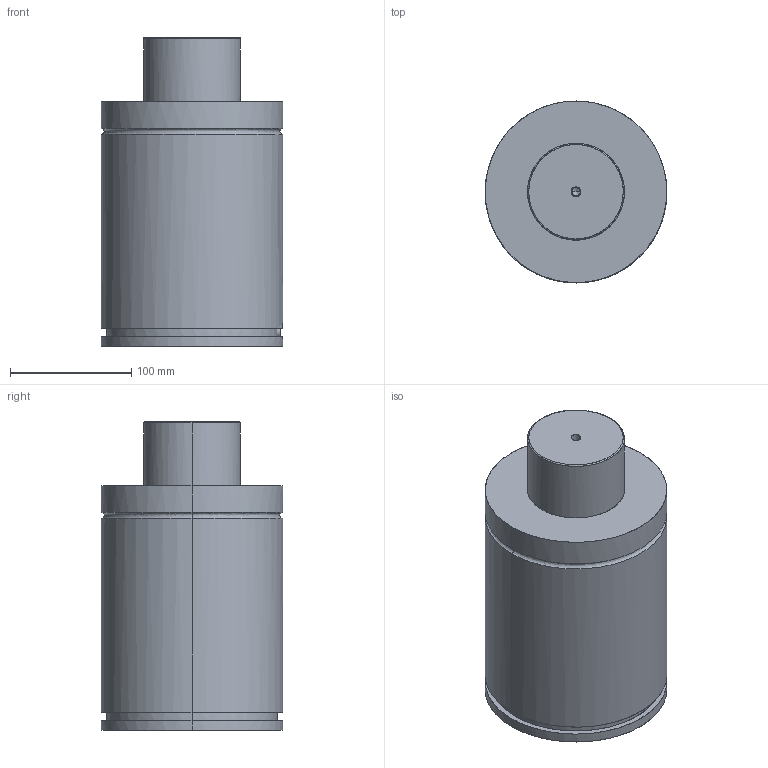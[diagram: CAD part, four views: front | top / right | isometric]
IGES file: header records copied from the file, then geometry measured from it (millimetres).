
Global section: file name: E:\UnigraphicsGraphicData\MISUMI_PRESS-PARTS\IGES\3d_gse150-50_03871_r00.igs; native system: NX V5.0; preprocessor: UGS NX IGES V5.0; author: MISUMI; date: 20110105.160754; units: millimetre
Bounding box: 150 x 150 x 255 mm (x, y, z)
Surface area: 152207.1 mm2 (no closed solid volume)
Topology: 0 solids, 0 shells, 75 faces, 604 edges, 602 vertices
Faces by surface type: bspline 75
